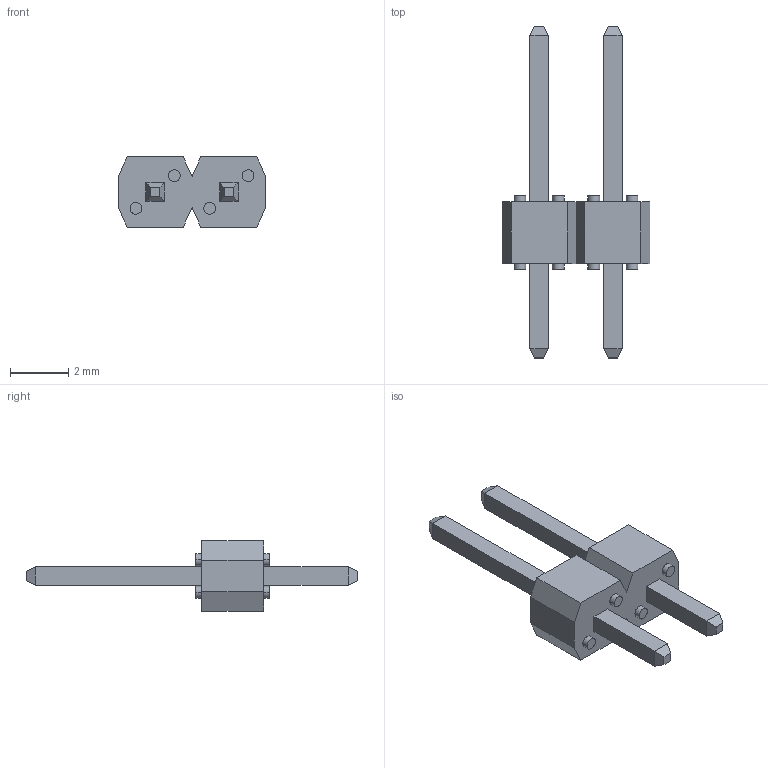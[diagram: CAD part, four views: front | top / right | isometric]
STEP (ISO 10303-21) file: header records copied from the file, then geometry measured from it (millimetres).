
FILE_DESCRIPTION((''),'2;1');
FILE_NAME('68001-X02','2019-09-20T',('pramu'),('AFCI'),'CREO PARAMETRIC BY PTC INC, 2016130','CREO PARAMETRIC BY PTC INC, 2016130','');
FILE_SCHEMA(('CONFIG_CONTROL_DESIGN'));
Length unit declared in the file: inch
Products named in the file (1): 68001-X02
Bounding box: 5.08 x 11.43 x 2.41 mm (x, y, z)
Volume: 31.9 mm3; surface area: 104 mm2
Topology: 1 solids, 1 shells, 76 faces, 170 edges, 108 vertices
Faces by surface type: plane 60, cylinder 16
Entity records: 2118 total; most frequent: CARTESIAN_POINT 354, DIRECTION 354, ORIENTED_EDGE 340, EDGE_CURVE 170, VECTOR 138, LINE 138, AXIS2_PLACEMENT_3D 108, VERTEX_POINT 108
